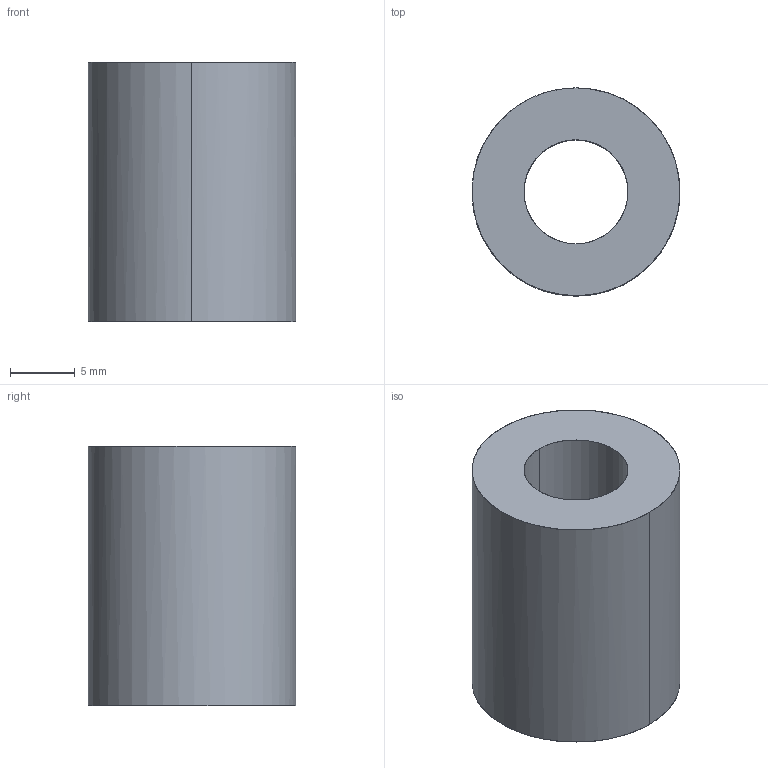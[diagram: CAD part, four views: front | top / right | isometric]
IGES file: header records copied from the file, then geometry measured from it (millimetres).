
Global section: file name: E:\UnigraphicsGraphicData\MISUMI_PRESS-PARTS\IGES\3d_swg16-20_00745_r00.igs; native system: NX V5.0; preprocessor: UGS NX IGES V5.0; author: MISUMI; date: 20110105.163256; units: millimetre
Bounding box: 16 x 16 x 20 mm (x, y, z)
Surface area: 1810.5 mm2 (no closed solid volume)
Topology: 0 solids, 0 shells, 6 faces, 48 edges, 48 vertices
Faces by surface type: bspline 6
